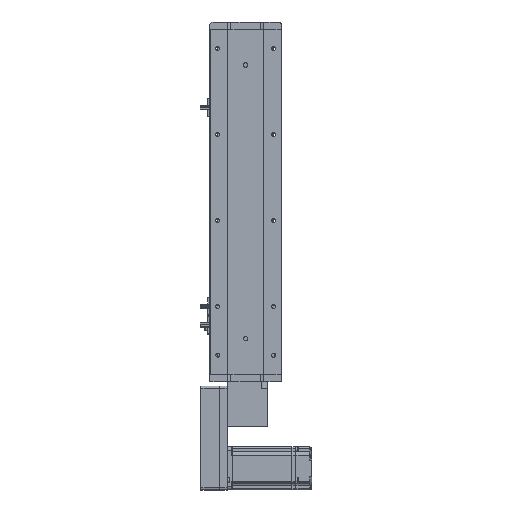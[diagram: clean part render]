
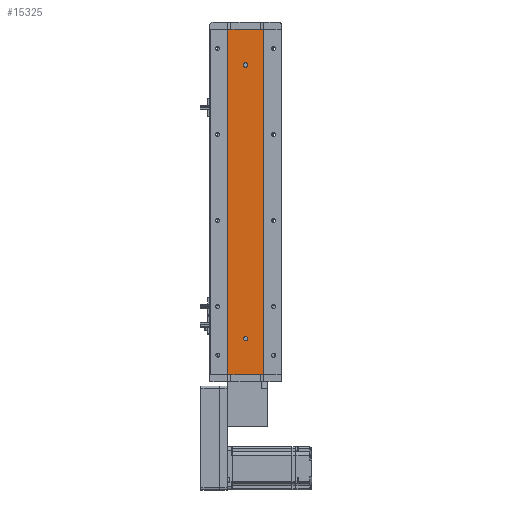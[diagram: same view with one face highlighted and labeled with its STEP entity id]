
A CAD part, left-side view. The second image highlights one B-rep face of the part: STEP entity #15325.
In plain terms, the highlighted planar face has unit normal (-1, 0, 0).
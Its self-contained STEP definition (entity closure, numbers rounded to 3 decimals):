
#645 = VECTOR ( 'NONE', #45771, 1000. ) ;
#2784 = CARTESIAN_POINT ( 'NONE',  ( -18.926, 0., 429. ) ) ;
#3045 = CIRCLE ( 'NONE', #16831, 3. ) ;
#3152 = ORIENTED_EDGE ( 'NONE', *, *, #52094, .F. ) ;
#4628 = CARTESIAN_POINT ( 'NONE',  ( -18.926, 24.785, 482. ) ) ;
#4771 = VERTEX_POINT ( 'NONE', #2784 ) ;
#4828 = CARTESIAN_POINT ( 'NONE',  ( -18.926, 0., 432. ) ) ;
#4838 = VERTEX_POINT ( 'NONE', #52207 ) ;
#6940 = AXIS2_PLACEMENT_3D ( 'NONE', #4828, #37992, #9544 ) ;
#8291 = VECTOR ( 'NONE', #18558, 1000. ) ;
#8305 = CARTESIAN_POINT ( 'NONE',  ( -18.926, -24.785, 0. ) ) ;
#9544 = DIRECTION ( 'NONE',  ( 0., 0., 1. ) ) ;
#12175 = EDGE_LOOP ( 'NONE', ( #59415, #3152 ) ) ;
#13576 = DIRECTION ( 'NONE',  ( -1., 0., 0. ) ) ;
#14227 = ORIENTED_EDGE ( 'NONE', *, *, #39591, .F. ) ;
#15325 = ADVANCED_FACE ( 'NONE', ( #56953, #31788, #33252 ), #31804, .F. ) ;
#16132 = EDGE_LOOP ( 'NONE', ( #18731, #44722 ) ) ;
#16184 = DIRECTION ( 'NONE',  ( -1., 0., 0. ) ) ;
#16745 = CARTESIAN_POINT ( 'NONE',  ( -18.926, -24.785, 482. ) ) ;
#16831 = AXIS2_PLACEMENT_3D ( 'NONE', #44550, #16184, #49319 ) ;
#16849 = AXIS2_PLACEMENT_3D ( 'NONE', #41971, #13576, #46723 ) ;
#17036 = EDGE_CURVE ( 'NONE', #45205, #20480, #33689, .T. ) ;
#17607 = EDGE_CURVE ( 'NONE', #4771, #36636, #45859, .T. ) ;
#18558 = DIRECTION ( 'NONE',  ( 0., -1., 0. ) ) ;
#18731 = ORIENTED_EDGE ( 'NONE', *, *, #60407, .F. ) ;
#19062 = DIRECTION ( 'NONE',  ( -1., 0., 0. ) ) ;
#19163 = LINE ( 'NONE', #16745, #31808 ) ;
#20480 = VERTEX_POINT ( 'NONE', #45545 ) ;
#25858 = LINE ( 'NONE', #50558, #645 ) ;
#27223 = CARTESIAN_POINT ( 'NONE',  ( -18.926, 24.785, 482. ) ) ;
#28268 = DIRECTION ( 'NONE',  ( 0., -1., 0. ) ) ;
#28559 = EDGE_LOOP ( 'NONE', ( #41080, #37961, #14227, #43192 ) ) ;
#28672 = AXIS2_PLACEMENT_3D ( 'NONE', #27223, #60360, #32007 ) ;
#28881 = CARTESIAN_POINT ( 'NONE',  ( -18.926, 24.785, 0. ) ) ;
#29568 = EDGE_CURVE ( 'NONE', #4838, #51949, #19163, .T. ) ;
#31788 = FACE_BOUND ( 'NONE', #16132, .T. ) ;
#31804 = PLANE ( 'NONE',  #28672 ) ;
#31808 = VECTOR ( 'NONE', #54629, 1000. ) ;
#32007 = DIRECTION ( 'NONE',  ( 0., 0., -1. ) ) ;
#33252 = FACE_OUTER_BOUND ( 'NONE', #28559, .T. ) ;
#33689 = CIRCLE ( 'NONE', #16849, 3. ) ;
#36636 = VERTEX_POINT ( 'NONE', #54891 ) ;
#36872 = CARTESIAN_POINT ( 'NONE',  ( -18.926, 0., 53. ) ) ;
#36883 = AXIS2_PLACEMENT_3D ( 'NONE', #47444, #19062, #52225 ) ;
#37961 = ORIENTED_EDGE ( 'NONE', *, *, #29568, .F. ) ;
#37992 = DIRECTION ( 'NONE',  ( -1., 0., 0. ) ) ;
#39011 = VECTOR ( 'NONE', #28268, 1000. ) ;
#39591 = EDGE_CURVE ( 'NONE', #52141, #4838, #40474, .T. ) ;
#40474 = LINE ( 'NONE', #4628, #39011 ) ;
#41080 = ORIENTED_EDGE ( 'NONE', *, *, #59503, .T. ) ;
#41971 = CARTESIAN_POINT ( 'NONE',  ( -18.926, 0., 50. ) ) ;
#42082 = CIRCLE ( 'NONE', #36883, 3. ) ;
#42181 = CARTESIAN_POINT ( 'NONE',  ( -18.926, 24.785, 0. ) ) ;
#42416 = VERTEX_POINT ( 'NONE', #28881 ) ;
#42683 = CARTESIAN_POINT ( 'NONE',  ( -18.926, 24.785, 482. ) ) ;
#43192 = ORIENTED_EDGE ( 'NONE', *, *, #53559, .T. ) ;
#44550 = CARTESIAN_POINT ( 'NONE',  ( -18.926, 0., 432. ) ) ;
#44722 = ORIENTED_EDGE ( 'NONE', *, *, #17607, .F. ) ;
#45205 = VERTEX_POINT ( 'NONE', #36872 ) ;
#45545 = CARTESIAN_POINT ( 'NONE',  ( -18.926, 0., 47. ) ) ;
#45771 = DIRECTION ( 'NONE',  ( 0., 0., -1. ) ) ;
#45859 = CIRCLE ( 'NONE', #6940, 3. ) ;
#46723 = DIRECTION ( 'NONE',  ( 0., 0., 1. ) ) ;
#47444 = CARTESIAN_POINT ( 'NONE',  ( -18.926, 0., 50. ) ) ;
#49319 = DIRECTION ( 'NONE',  ( 0., 0., 1. ) ) ;
#50558 = CARTESIAN_POINT ( 'NONE',  ( -18.926, 24.785, 482. ) ) ;
#51949 = VERTEX_POINT ( 'NONE', #8305 ) ;
#52094 = EDGE_CURVE ( 'NONE', #20480, #45205, #42082, .T. ) ;
#52141 = VERTEX_POINT ( 'NONE', #42683 ) ;
#52207 = CARTESIAN_POINT ( 'NONE',  ( -18.926, -24.785, 482. ) ) ;
#52225 = DIRECTION ( 'NONE',  ( 0., 0., 1. ) ) ;
#53559 = EDGE_CURVE ( 'NONE', #52141, #42416, #25858, .T. ) ;
#54629 = DIRECTION ( 'NONE',  ( 0., 0., -1. ) ) ;
#54891 = CARTESIAN_POINT ( 'NONE',  ( -18.926, 0., 435. ) ) ;
#56953 = FACE_BOUND ( 'NONE', #12175, .T. ) ;
#58725 = LINE ( 'NONE', #42181, #8291 ) ;
#59415 = ORIENTED_EDGE ( 'NONE', *, *, #17036, .F. ) ;
#59503 = EDGE_CURVE ( 'NONE', #42416, #51949, #58725, .T. ) ;
#60360 = DIRECTION ( 'NONE',  ( 1., 0., 0. ) ) ;
#60407 = EDGE_CURVE ( 'NONE', #36636, #4771, #3045, .T. ) ;
